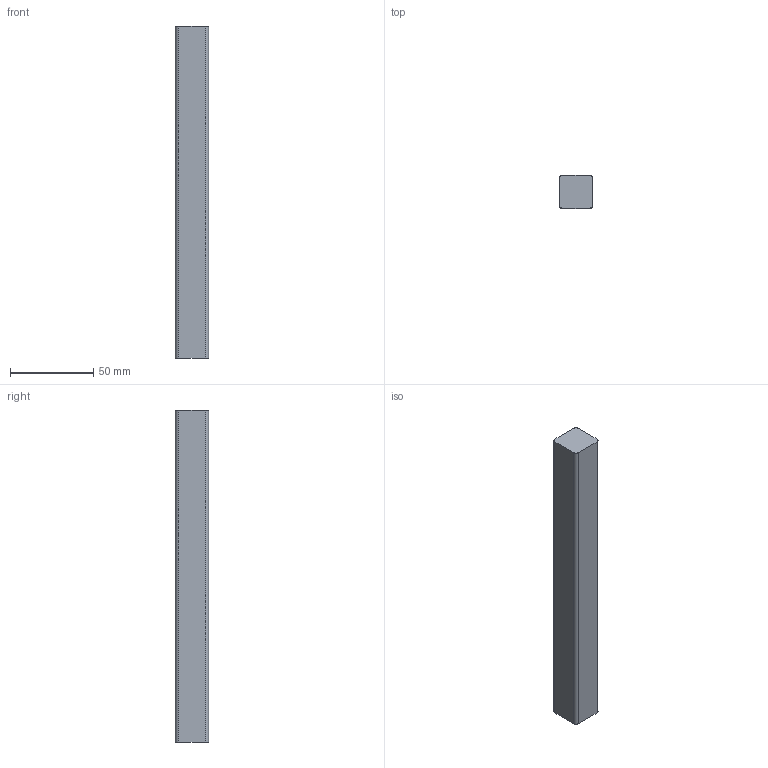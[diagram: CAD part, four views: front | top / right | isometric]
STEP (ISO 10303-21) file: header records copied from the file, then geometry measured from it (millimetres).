
FILE_DESCRIPTION (( 'STEP AP203' ), '1' );
FILE_NAME ('x.STEP', '2020-03-04T09:23:39', ( '' ), ( '' ), 'SwSTEP 2.0', 'SolidWorks 2018', '' );
FILE_SCHEMA (( 'CONFIG_CONTROL_DESIGN' ));
Length unit declared in the file: millimetre
Products named in the file (1): x
Bounding box: 20 x 20 x 200 mm (x, y, z)
Volume: 79313.3 mm3; surface area: 16106.4 mm2
Topology: 1 solids, 1 shells, 10 faces, 24 edges, 16 vertices
Faces by surface type: plane 6, cylinder 4
Entity records: 373 total; most frequent: DIRECTION 54, CARTESIAN_POINT 51, ORIENTED_EDGE 48, EDGE_CURVE 24, AXIS2_PLACEMENT_3D 19, VERTEX_POINT 16, LINE 16, VECTOR 16
